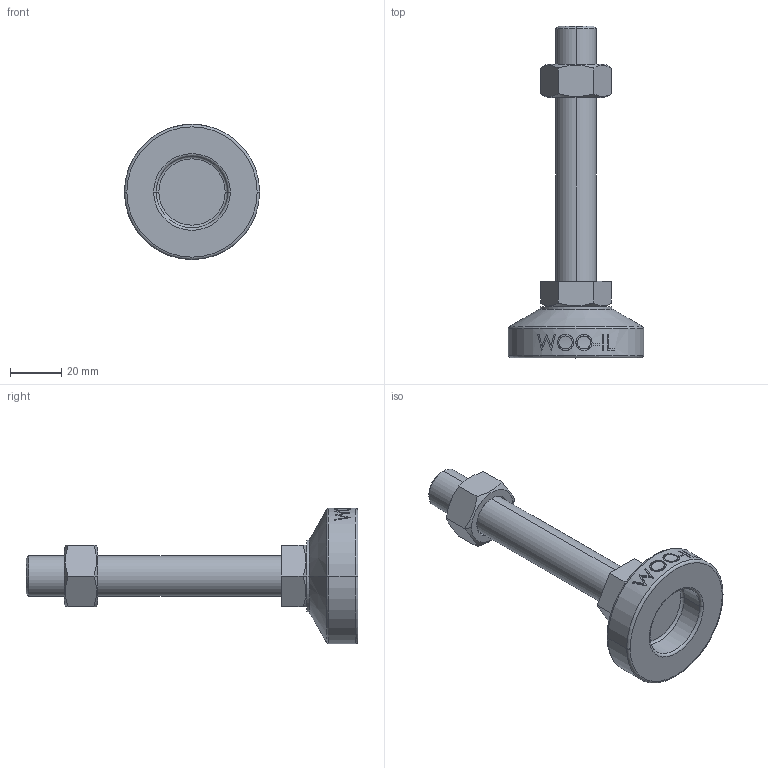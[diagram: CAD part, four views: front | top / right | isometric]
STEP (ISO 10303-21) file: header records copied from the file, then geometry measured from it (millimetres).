
FILE_DESCRIPTION (( 'STEP AP214' ), '1' );
FILE_NAME ('MFZ53-M16-100.step', '2021-01-15T07:04:21', ( '' ), ( '' ), 'SwSTEP 2.0', 'SolidWorks 2019', '' );
FILE_SCHEMA (( 'AUTOMOTIVE_DESIGN' ));
Length unit declared in the file: millimetre
Products named in the file (2): MFZ53-M16-100
Bounding box: 53 x 130 x 53 mm (x, y, z)
Volume: 58881.7 mm3; surface area: 16514.4 mm2
Topology: 3 solids, 3 shells, 106 faces, 243 edges, 154 vertices
Faces by surface type: plane 48, cylinder 18, bspline 16, cone 14, torus 10
Entity records: 4508 total; most frequent: CARTESIAN_POINT 2165, ORIENTED_EDGE 486, DIRECTION 439, EDGE_CURVE 243, AXIS2_PLACEMENT_3D 170, VERTEX_POINT 154, EDGE_LOOP 119, FACE_OUTER_BOUND 106
